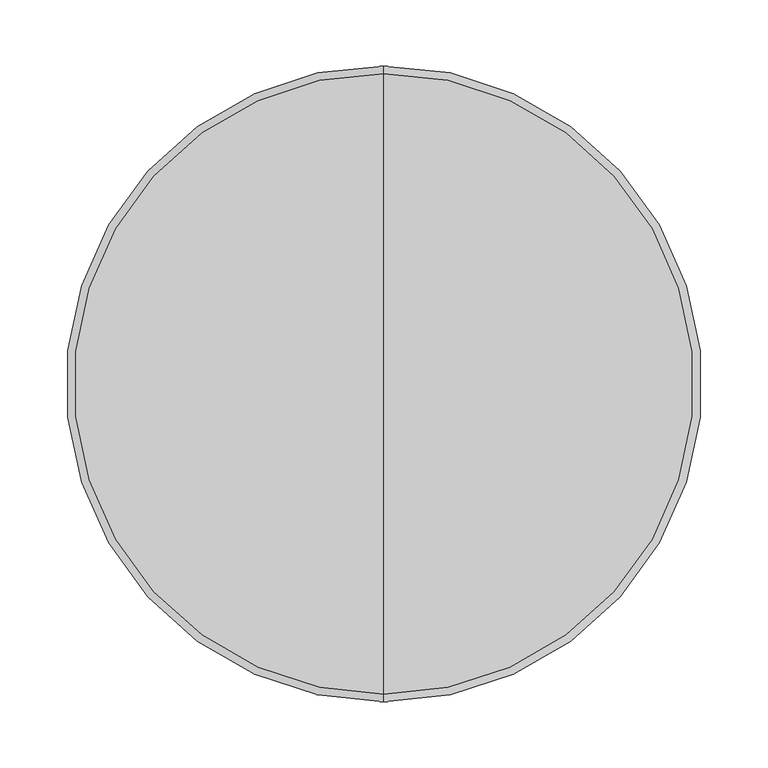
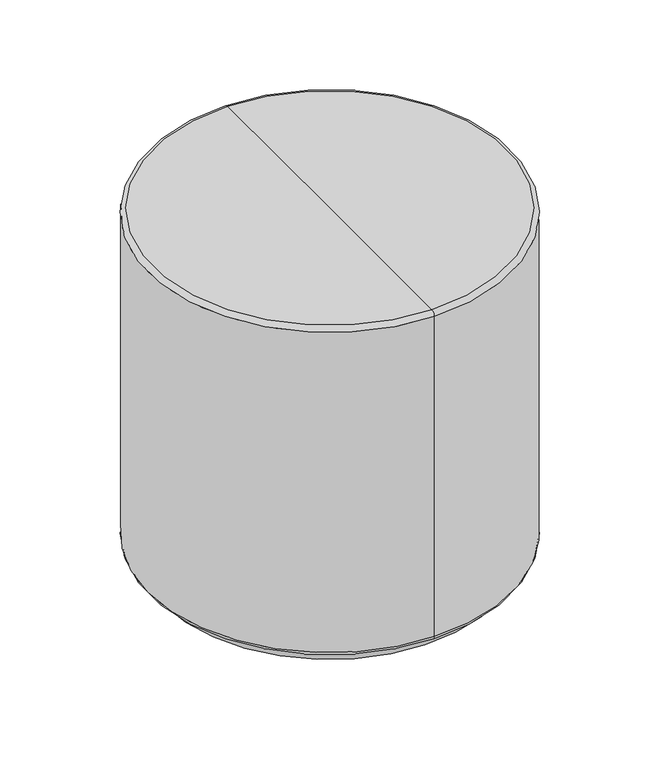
"""IFC4 building model written with IfcOpenShell, lengths in millimetres: furniture geometry, Haworth_BuzziSpot : HCBZ-STPF-2."""

from ifc_helpers import new_model, si_unit, point, frame, frame_2d, origin, place, context, project, spatial, circle_curve, ellipse_curve, trimmed, segment, composite_curve, outline, extrude, source, transform, mapped, element, save
from ifc_brep_helpers import plane_surface, cylinder_surface, revolved_surface, advanced_brep


def furniture_7d3a10d5(model_context):
    return source(origin(), model_context, "Body", "SolidModel", [
        extrude(outline(composite_curve([segment(trimmed(circle_curve(frame_2d((24.2670222, 516.3930528)), 23.9427234), [point((24.2670222, 492.4503293))], [point((24.2670222, 540.3357762))], False, "CARTESIAN"), True, "CONTINUOUS"), segment(trimmed(circle_curve(frame_2d((24.2670222, 516.3930528)), 23.9427234), [point((24.2670222, 540.3357762))], [point((24.2670222, 492.4503293))], False, "CARTESIAN"), True, "CONTINUOUS")], self_intersect=False)), frame((0.0, 200.4893042, 0.0), z_axis=(0.0, 1.0, 0.0), x_axis=(0.0, 0.0, 1.0)), (0.0, 0.0, 1.0), 17.6558627),
        extrude(outline(composite_curve([segment(trimmed(circle_curve(frame_2d((24.2670222, 709.5191574)), 23.9427234), [point((24.2670222, 685.5764339))], [point((24.2670222, 733.4618808))], False, "CARTESIAN"), True, "CONTINUOUS"), segment(trimmed(circle_curve(frame_2d((24.2670222, 709.5191574)), 23.9427234), [point((24.2670222, 733.4618808))], [point((24.2670222, 685.5764339))], False, "CARTESIAN"), True, "CONTINUOUS")], self_intersect=False)), frame((0.0, 139.2606651, 0.0), z_axis=(0.0, 1.0, 0.0), x_axis=(0.0, 0.0, 1.0)), (0.0, 0.0, 1.0), 17.6558627),
        extrude(outline(composite_curve([segment(trimmed(circle_curve(frame_2d((24.2670222, 709.5828379)), 23.9427234), [point((24.2670222, 685.6401144))], [point((24.2670222, 733.5255613))], False, "CARTESIAN"), True, "CONTINUOUS"), segment(trimmed(circle_curve(frame_2d((24.2670222, 709.5828379)), 23.9427234), [point((24.2670222, 733.5255613))], [point((24.2670222, 685.6401144))], False, "CARTESIAN"), True, "CONTINUOUS")], self_intersect=False)), frame((0.0, -63.4859984, 0.0), z_axis=(0.0, 1.0, 0.0), x_axis=(0.0, 0.0, 1.0)), (0.0, 0.0, 1.0), 17.6558627),
        extrude(outline(composite_curve([segment(trimmed(circle_curve(frame_2d((24.2670222, 398.2195599)), 23.9427234), [point((24.2670222, 374.2768364))], [point((24.2670222, 422.1622833))], False, "CARTESIAN"), True, "CONTINUOUS"), segment(trimmed(circle_curve(frame_2d((24.2670222, 398.2195599)), 23.9427234), [point((24.2670222, 422.1622833))], [point((24.2670222, 374.2768364))], False, "CARTESIAN"), True, "CONTINUOUS")], self_intersect=False)), frame((0.0, 36.1346333, 0.0), z_axis=(0.0, 1.0, 0.0), x_axis=(0.0, 0.0, 1.0)), (0.0, 0.0, 1.0), 17.6558627),
        extrude(outline(composite_curve([segment(trimmed(circle_curve(frame_2d((24.2670222, 516.5077885)), 23.9427234), [point((24.2670222, 492.5650651))], [point((24.2670222, 540.450512))], False, "CARTESIAN"), True, "CONTINUOUS"), segment(trimmed(circle_curve(frame_2d((24.2670222, 516.5077885)), 23.9427234), [point((24.2670222, 540.450512))], [point((24.2670222, 492.5650651))], False, "CARTESIAN"), True, "CONTINUOUS")], self_intersect=False)), frame((0.0, -127.2213976, 0.0), z_axis=(0.0, 1.0, 0.0), x_axis=(0.0, 0.0, 1.0)), (0.0, 0.0, 1.0), 17.6558627),
        extrude(outline(composite_curve([segment(trimmed(circle_curve(frame_2d((570.4935539, 44.45)), 219.9011404), [point((350.5924135, 44.45))], [point((790.3946943, 44.45))], False, "CARTESIAN"), True, "CONTINUOUS"), segment(trimmed(circle_curve(frame_2d((570.4935539, 44.45)), 219.9011404), [point((790.3946943, 44.45))], [point((350.5924135, 44.45))], False, "CARTESIAN"), True, "CONTINUOUS")], self_intersect=False)), frame((0.0, 0.0, 14.994014), z_axis=(0.0, 0.0, 1.0), x_axis=(1.0, 0.0, 0.0)), (0.0, 0.0, 1.0), 18.4045248),
        advanced_brep(
        [(571.0786742, -196.348659, 487.9615752), (571.0786742, 285.248659, 487.9615752), (571.0786742, 279.4160527, 493.794605), (571.0786742, -190.5160527, 493.794605), (571.0786742, -196.315655, 39.2520201), (571.0786742, 285.215655, 39.2520201), (571.0786742, -190.4621744, 33.3985388), (571.0786742, 279.3621744, 33.3985388), (571.0786742, 44.45, 33.3985388), (571.0786742, 44.45, 493.794605)],
        [
            (0, 1, circle_curve(frame((571.0786742, 44.45, 487.9615752), z_axis=(0.0, 0.0, 1.0), x_axis=(0.0, 1.0, 0.0)), 240.798659)),
            (1, 2, circle_curve(frame((571.0786742, 279.4160527, 487.9619986), z_axis=(1.0, 0.0, 0.0), x_axis=(0.0, 1.0, 0.0)), 5.8326063)),
            (2, 3, circle_curve(frame((571.0786742, 44.45, 493.794605), z_axis=(0.0, 0.0, -1.0), x_axis=(0.0, 1.0, 0.0)), 234.9660527)),
            (3, 0, circle_curve(frame((571.0786742, -190.5160527, 487.9619986), z_axis=(1.0, 0.0, 0.0), x_axis=(0.0, -1.0, 0.0)), 5.8326063)),
            (1, 0, circle_curve(frame((571.0786742, 44.45, 487.9615752), z_axis=(0.0, 0.0, 1.0), x_axis=(0.0, 1.0, 0.0)), 240.798659)),
            (3, 2, circle_curve(frame((571.0786742, 44.45, 493.794605), z_axis=(0.0, 0.0, -1.0), x_axis=(0.0, 1.0, 0.0)), 234.9660527)),
            (4, 5, circle_curve(frame((571.0786742, 44.45, 39.2520201), z_axis=(0.0, 0.0, 1.0), x_axis=(0.0, 1.0, 0.0)), 240.765655)),
            (5, 1),
            (0, 4),
            (5, 4, circle_curve(frame((571.0786742, 44.45, 39.2520201), z_axis=(0.0, 0.0, 1.0), x_axis=(0.0, 1.0, 0.0)), 240.765655)),
            (6, 7, circle_curve(frame((571.0786742, 44.45, 33.3985388), z_axis=(0.0, 0.0, 1.0), x_axis=(0.0, 1.0, 0.0)), 234.9121744)),
            (7, 5, circle_curve(frame((571.0786742, 279.3621744, 39.2524451), z_axis=(1.0, 0.0, 0.0), x_axis=(0.0, 1.0, 0.0)), 5.8539063)),
            (4, 6, circle_curve(frame((571.0786742, -190.4621744, 39.2524451), z_axis=(1.0, 0.0, 0.0), x_axis=(0.0, -1.0, 0.0)), 5.8539063)),
            (7, 6, circle_curve(frame((571.0786742, 44.45, 33.3985388), z_axis=(0.0, 0.0, 1.0), x_axis=(0.0, 1.0, 0.0)), 234.9121744)),
            (8, 7),
            (6, 8),
            (2, 9),
            (9, 3),
        ],
        [
            revolved_surface(trimmed(ellipse_curve(frame((571.0786742, 279.4160527, 487.9619986), z_axis=(-1.0, 0.0, 0.0), x_axis=(0.0, 1.0, 0.0)), 5.8326063, 5.8326063), [point((571.0786742, 279.4160527, 493.794605))], [point((571.0786742, 285.248659, 487.9615752))], True, "CARTESIAN"), (571.0786742, 44.45, 33.3985388), (0.0, 0.0, -1.0)),
            cylinder_surface(frame((571.0786742, 44.45, 33.3985388), z_axis=(0.0, 0.0, -1.0), x_axis=(0.0, 1.0, 0.0)), 240.765655),
            revolved_surface(trimmed(ellipse_curve(frame((571.0786742, 279.3621744, 39.2524451), z_axis=(-1.0, 0.0, 0.0), x_axis=(0.0, 1.0, 0.0)), 5.8539063, 5.8539063), [point((571.0786742, 285.2160806, 39.2520201))], [point((571.0786742, 279.3621744, 33.3985388))], True, "CARTESIAN"), (571.0786742, 44.45, 33.3985388), (0.0, 0.0, -1.0)),
            plane_surface(frame((571.0786742, 44.45, 33.3985388), z_axis=(0.0, 0.0, -1.0), x_axis=(0.0, 1.0, 0.0))),
            plane_surface(frame((571.0786742, 44.45, 493.794605), z_axis=(0.0, 0.0, 1.0), x_axis=(0.0, 1.0, 0.0))),
        ],
        [
            (0, [[1, 2, 3, 4]]),
            (0, [[5, -4, 6, -2]]),
            (1, [[7, 8, -1, 9]]),
            (1, [[10, -9, -5, -8]]),
            (2, [[11, 12, -7, 13]]),
            (2, [[14, -13, -10, -12]]),
            (3, [[15, -11, 16]]),
            (3, [[-16, -14, -15]]),
            (4, [[-3, 17, 18]]),
            (4, [[-6, -18, -17]]),
        ],
    ),
    ])


if __name__ == "__main__":
    model = new_model("IFC4")
    model_context = context("Model", 3, world=origin())
    ifc_project = project(units=[si_unit("LENGTHUNIT", "METRE", prefix="MILLI")], contexts=[model_context])
    site = spatial("IfcSite", under=ifc_project)
    building = spatial("IfcBuilding", under=site)
    placement = place(None, origin())
    furniture_shape = furniture_7d3a10d5(model_context)
    element("IfcFurniture", 1, ObjectType="Haworth_BuzziSpot : HCBZ-STPF-2", at=placement, inside=building, context=model_context, shape_type="MappedRepresentation", body=[
        mapped(furniture_shape, transform((0.0, 0.0, 0.0), x_axis=(1.0, 0.0, 0.0), y_axis=(0.0, 1.0, 0.0), z_axis=(0.0, 0.0, 1.0))),
    ])
    save(model, "model.ifc")
